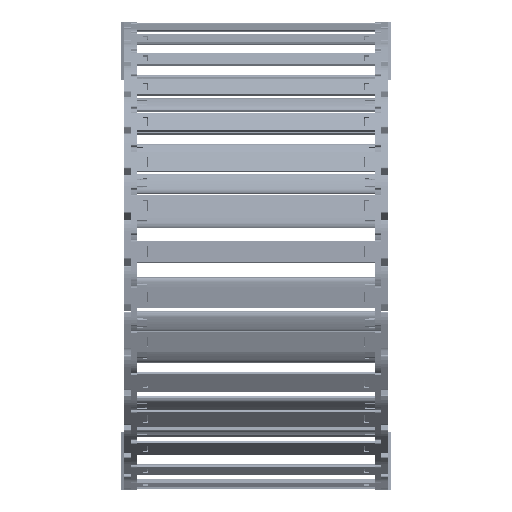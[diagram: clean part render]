
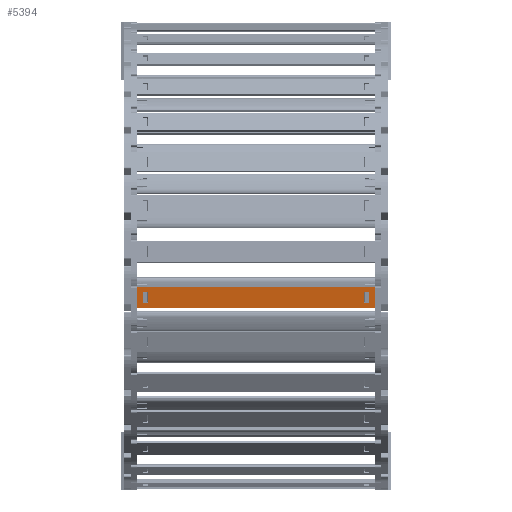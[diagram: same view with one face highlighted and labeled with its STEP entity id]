
A CAD part, left-side view. The second image highlights one B-rep face of the part: STEP entity #5394.
In plain terms, the highlighted planar face has unit normal (-0.984, 0, -0.177) as drawn and (0, 1, 0) by its records, which use the part's own axes.
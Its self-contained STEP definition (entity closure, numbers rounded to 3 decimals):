
#4814=DIRECTION('',(0.,0.,1.));
#4815=VECTOR('',#4814,15.8);
#4816=CARTESIAN_POINT('',(161.24,1.5,-7.9));
#4817=LINE('',#4816,#4815);
#4818=DIRECTION('',(-1.,0.,0.));
#4819=VECTOR('',#4818,176.);
#4820=CARTESIAN_POINT('',(161.24,1.5,7.9));
#4821=LINE('',#4820,#4819);
#4822=DIRECTION('',(0.,0.,-1.));
#4823=VECTOR('',#4822,15.8);
#4824=CARTESIAN_POINT('',(-14.76,1.5,7.9));
#4825=LINE('',#4824,#4823);
#4826=DIRECTION('',(1.,0.,0.));
#4827=VECTOR('',#4826,3.648);
#4828=CARTESIAN_POINT('',(153.622,1.5,4.075));
#4829=LINE('',#4828,#4827);
#4830=DIRECTION('',(0.,0.,-1.));
#4831=VECTOR('',#4830,8.15);
#4832=CARTESIAN_POINT('',(157.27,1.5,4.075));
#4833=LINE('',#4832,#4831);
#4834=DIRECTION('',(-1.,0.,0.));
#4835=VECTOR('',#4834,3.648);
#4836=CARTESIAN_POINT('',(157.27,1.5,-4.075));
#4837=LINE('',#4836,#4835);
#4838=DIRECTION('',(0.,0.,-1.));
#4839=VECTOR('',#4838,8.15);
#4840=CARTESIAN_POINT('',(-7.142,1.5,4.075));
#4841=LINE('',#4840,#4839);
#4842=DIRECTION('',(-1.,0.,0.));
#4843=VECTOR('',#4842,3.648);
#4844=CARTESIAN_POINT('',(-7.142,1.5,-4.075));
#4845=LINE('',#4844,#4843);
#4846=DIRECTION('',(0.,0.,1.));
#4847=VECTOR('',#4846,8.15);
#4848=CARTESIAN_POINT('',(-10.79,1.5,-4.075));
#4849=LINE('',#4848,#4847);
#4850=DIRECTION('',(1.,0.,0.));
#4851=VECTOR('',#4850,3.648);
#4852=CARTESIAN_POINT('',(-10.79,1.5,4.075));
#4853=LINE('',#4852,#4851);
#4858=DIRECTION('',(-1.,0.,0.));
#4859=VECTOR('',#4858,176.);
#4860=CARTESIAN_POINT('',(161.24,1.5,-7.9));
#4861=LINE('',#4860,#4859);
#4979=DIRECTION('',(0.,0.,-1.));
#4980=VECTOR('',#4979,8.15);
#4981=CARTESIAN_POINT('',(153.622,1.5,4.075));
#4982=LINE('',#4981,#4980);
#5164=CARTESIAN_POINT('',(157.27,1.5,4.075));
#5165=VERTEX_POINT('',#5164);
#5166=CARTESIAN_POINT('',(153.622,1.5,4.075));
#5167=VERTEX_POINT('',#5166);
#5208=CARTESIAN_POINT('',(153.622,1.5,-4.075));
#5209=VERTEX_POINT('',#5208);
#5210=CARTESIAN_POINT('',(157.27,1.5,-4.075));
#5211=VERTEX_POINT('',#5210);
#5212=CARTESIAN_POINT('',(161.24,1.5,7.9));
#5214=VERTEX_POINT('',#5212);
#5216=CARTESIAN_POINT('',(161.24,1.5,-7.9));
#5217=VERTEX_POINT('',#5216);
#5240=CARTESIAN_POINT('',(-7.142,1.5,4.075));
#5241=CARTESIAN_POINT('',(-7.142,1.5,-4.075));
#5242=VERTEX_POINT('',#5240);
#5243=VERTEX_POINT('',#5241);
#5244=CARTESIAN_POINT('',(-10.79,1.5,-4.075));
#5245=VERTEX_POINT('',#5244);
#5246=CARTESIAN_POINT('',(-10.79,1.5,4.075));
#5247=VERTEX_POINT('',#5246);
#5248=CARTESIAN_POINT('',(-14.76,1.5,7.9));
#5249=VERTEX_POINT('',#5248);
#5252=CARTESIAN_POINT('',(-14.76,1.5,-7.9));
#5253=VERTEX_POINT('',#5252);
#5363=CARTESIAN_POINT('',(192.98,1.5,10.061));
#5364=DIRECTION('',(0.,-1.,0.));
#5365=DIRECTION('',(0.,0.,-1.));
#5366=AXIS2_PLACEMENT_3D('',#5363,#5364,#5365);
#5367=PLANE('',#5366);
#5368=ORIENTED_EDGE('',*,*,#5302,.T.);
#5369=ORIENTED_EDGE('',*,*,#5328,.T.);
#5370=ORIENTED_EDGE('',*,*,#5341,.T.);
#5372=ORIENTED_EDGE('',*,*,#5371,.F.);
#5373=EDGE_LOOP('',(#5368,#5369,#5370,#5372));
#5374=FACE_OUTER_BOUND('',#5373,.F.);
#5376=ORIENTED_EDGE('',*,*,#5375,.F.);
#5377=ORIENTED_EDGE('',*,*,#5265,.T.);
#5379=ORIENTED_EDGE('',*,*,#5378,.T.);
#5381=ORIENTED_EDGE('',*,*,#5380,.T.);
#5382=EDGE_LOOP('',(#5376,#5377,#5379,#5381));
#5383=FACE_BOUND('',#5382,.F.);
#5385=ORIENTED_EDGE('',*,*,#5384,.T.);
#5387=ORIENTED_EDGE('',*,*,#5386,.T.);
#5389=ORIENTED_EDGE('',*,*,#5388,.T.);
#5391=ORIENTED_EDGE('',*,*,#5390,.T.);
#5392=EDGE_LOOP('',(#5385,#5387,#5389,#5391));
#5393=FACE_BOUND('',#5392,.F.);
#5394=ADVANCED_FACE('',(#5374,#5383,#5393),#5367,.F.);
#5265=EDGE_CURVE('',#5167,#5165,#4829,.T.);
#5302=EDGE_CURVE('',#5217,#5214,#4817,.T.);
#5328=EDGE_CURVE('',#5214,#5249,#4821,.T.);
#5341=EDGE_CURVE('',#5249,#5253,#4825,.T.);
#5371=EDGE_CURVE('',#5217,#5253,#4861,.T.);
#5375=EDGE_CURVE('',#5167,#5209,#4982,.T.);
#5378=EDGE_CURVE('',#5165,#5211,#4833,.T.);
#5380=EDGE_CURVE('',#5211,#5209,#4837,.T.);
#5384=EDGE_CURVE('',#5242,#5243,#4841,.T.);
#5386=EDGE_CURVE('',#5243,#5245,#4845,.T.);
#5388=EDGE_CURVE('',#5245,#5247,#4849,.T.);
#5390=EDGE_CURVE('',#5247,#5242,#4853,.T.);
